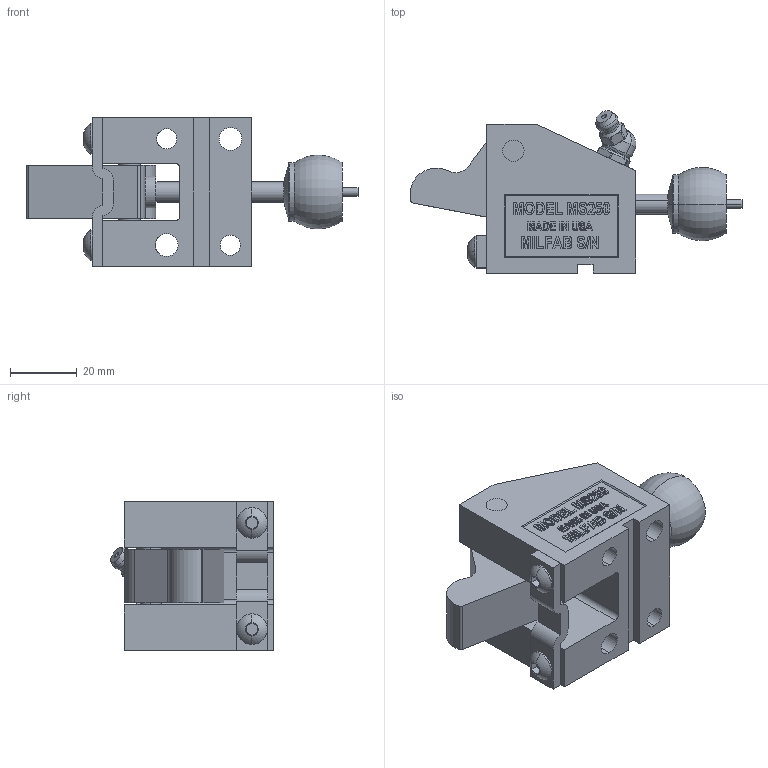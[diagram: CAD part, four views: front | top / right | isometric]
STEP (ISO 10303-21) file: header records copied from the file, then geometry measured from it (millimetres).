
FILE_DESCRIPTION (( 'STEP AP214' ), '1' );
FILE_NAME ('MS25045-C.STEP', '2014-01-07T17:48:55', ( 'user' ), ( '' ), 'SwSTEP 2.0', 'SolidWorks 2009', '' );
FILE_SCHEMA (( 'AUTOMOTIVE_DESIGN' ));
Length unit declared in the file: inch
Products named in the file (11): MS25045-C; M-I-250-POINT; MS250-PUNCH; MS250-BODY; 250-I-STRAP; 250 PIVOT PIN; 250-WASHER; 250-OFFSET TRIGGER; GREASE ZERK; 250 STRIPPER CLOSED; 10-SCREW
Assembly tree (11 placements, depth 2):
  MS25045-C
    10-SCREW  x2
    250-OFFSET TRIGGER
    GREASE ZERK
    MS250-PUNCH
    250-WASHER
    MS250-BODY
    250 STRIPPER CLOSED
    250 PIVOT PIN
    M-I-250-POINT
    250-I-STRAP
Bounding box: 99.15 x 48.53 x 44.45 mm (x, y, z)
Volume: 70958.1 mm3; surface area: 27321.3 mm2
Topology: 11 solids, 11 shells, 591 faces, 1527 edges, 1003 vertices
Faces by surface type: plane 343, bspline 100, cylinder 94, cone 28, torus 26
Entity records: 23805 total; most frequent: CARTESIAN_POINT 9941, ORIENTED_EDGE 2974, DIRECTION 2375, EDGE_CURVE 1487, VERTEX_POINT 979, VECTOR 975, LINE 975, AXIS2_PLACEMENT_3D 700
